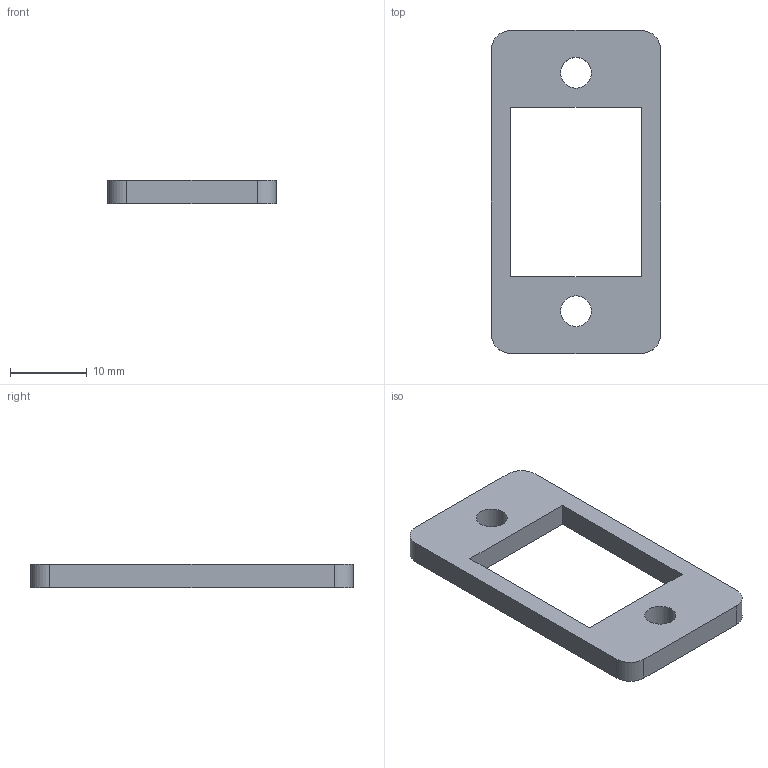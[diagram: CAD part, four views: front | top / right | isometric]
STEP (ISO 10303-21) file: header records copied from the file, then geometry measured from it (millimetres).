
FILE_DESCRIPTION(('FreeCAD Model'),'2;1');
FILE_NAME('Open CASCADE Shape Model','2025-01-25T13:22:11',(''),(''), 'Open CASCADE STEP processor 7.6','FreeCAD','Unknown');
FILE_SCHEMA(('AUTOMOTIVE_DESIGN { 1 0 10303 214 1 1 1 1 }'));
Length unit declared in the file: millimetre
Products named in the file (1): Spacer
Bounding box: 22 x 42 x 3 mm (x, y, z)
Volume: 1558.5 mm3; surface area: 1719.5 mm2
Topology: 1 solids, 1 shells, 16 faces, 42 edges, 28 vertices
Faces by surface type: plane 10, cylinder 6
Full cylindrical faces by diameter (mm): 4 x2
Entity records: 532 total; most frequent: DIRECTION 88, CARTESIAN_POINT 87, ORIENTED_EDGE 84, EDGE_CURVE 42, LINE 30, VECTOR 30, AXIS2_PLACEMENT_3D 29, VERTEX_POINT 28
